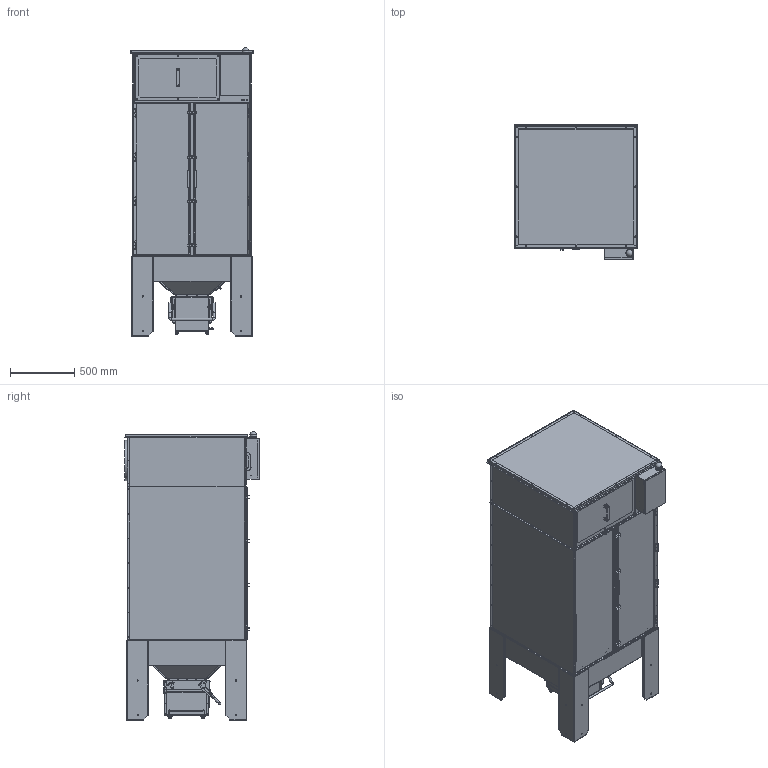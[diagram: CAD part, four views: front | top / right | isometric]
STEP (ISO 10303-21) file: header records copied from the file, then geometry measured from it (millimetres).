
FILE_DESCRIPTION(/* description */ (''),/* implementation_level */ '2;1');
FILE_NAME(/* name */ '15-494 Geofilter GFB2 W3 9-3 v137 ny.step',/* time_stamp */ '2023-11-29T08:21:57+01:00',/* author */ (''),/* organization */ (''),/* preprocessor_version */ 'ST-DEVELOPER v20',/* originating_system */ 'Autodesk Translation Framework v12.14.0.127',/* authorisation */ '');
FILE_SCHEMA (('AUTOMOTIVE_DESIGN { 1 0 10303 214 3 1 1 }'));
Products named in the file (2): (Unsaved); Component143
Assembly tree (1 placements, depth 2):
  (Unsaved)
    Component143
Bounding box: 964.11 x 1050.21 x 2246.67 mm (x, y, z)
Volume: 17765803.9 mm3; surface area: 21644608 mm2
Topology: 1 solids, 1 shells, 5436 faces, 15594 edges, 10166 vertices
Faces by surface type: plane 3577, cylinder 1548, cone 148, bspline 90, torus 70, sphere 3
Full cylindrical faces by diameter (mm): 1 x1, 2.729 x2, 3 x12, 3.3 x10, 4.5 x6, 5 x465, 5.1 x48, 6 x32, 7 x13, 7.137 x1, 7.188 x1, 7.518 x1, 8 x12, 8.054 x8, 8.6 x8, 8.903 x1, 9 x19, 10 x8, 10.922 x1, 11 x2, 11.049 x1, 11.582 x1, 12 x4, 14.275 x1, 15.088 x1, 16.815 x1, 17 x3, 18 x4, 20 x8, 21 x8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
Entity records: 194042 total; most frequent: CARTESIAN_POINT 48381, ORIENTED_EDGE 31182, DIRECTION 29782, EDGE_CURVE 15591, VERTEX_POINT 10166, AXIS2_PLACEMENT_3D 10080, LINE 9622, VECTOR 9622
